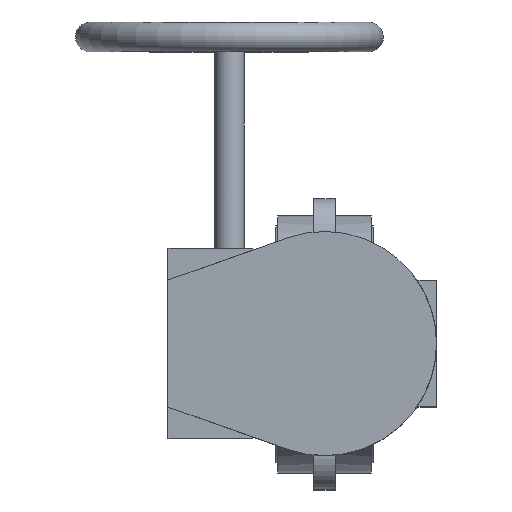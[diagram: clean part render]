
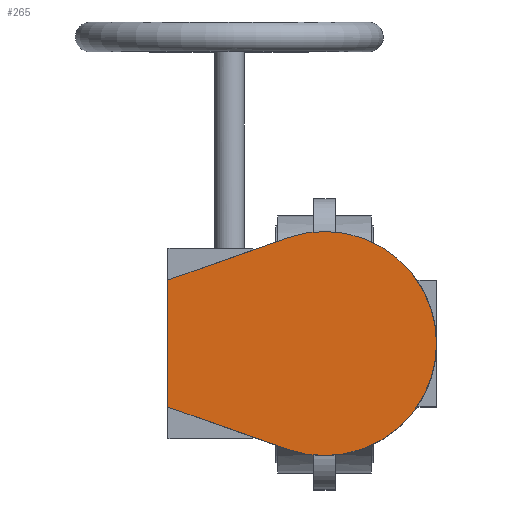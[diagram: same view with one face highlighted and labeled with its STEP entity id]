
A CAD part, top view. The second image highlights one B-rep face of the part: STEP entity #265.
In plain terms, the highlighted planar face has unit normal (0, 0, 1).
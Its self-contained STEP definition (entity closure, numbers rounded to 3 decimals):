
#265=ADVANCED_FACE('',(#6156),#6158,.T.);
#6156=FACE_BOUND('',#6157,.T.);
#6157=EDGE_LOOP('',(#10836,#10837,#10838,#10839));
#6158=PLANE('',#6159);
#6159=AXIS2_PLACEMENT_3D('',#6160,#6161,#6162);
#6160=CARTESIAN_POINT('',(0.,0.,240.));
#6161=DIRECTION('',(0.,0.,1.));
#6162=DIRECTION('',(0.,1.,0.));
#10836=ORIENTED_EDGE('',*,*,#14504,.T.);
#10837=ORIENTED_EDGE('',*,*,#14500,.T.);
#10838=ORIENTED_EDGE('',*,*,#14493,.T.);
#10839=ORIENTED_EDGE('',*,*,#14488,.T.);
#14488=EDGE_CURVE('',#16406,#16404,#16407,.T.);
#14493=EDGE_CURVE('',#16414,#16406,#16415,.T.);
#14500=EDGE_CURVE('',#16427,#16414,#16428,.T.);
#14504=EDGE_CURVE('',#16404,#16427,#16433,.T.);
#16404=VERTEX_POINT('',#19601);
#16406=VERTEX_POINT('',#19605);
#16407=LINE('',#19606,#19607);
#16414=VERTEX_POINT('',#19623);
#16415=LINE('',#19624,#19625);
#16427=VERTEX_POINT('',#19650);
#16428=LINE('',#19651,#19652);
#16433=CIRCLE('',#19664,53.);
#19601=CARTESIAN_POINT('',(-17.708,-49.954,240.));
#19605=CARTESIAN_POINT('',(-74.,-30.,240.));
#19606=CARTESIAN_POINT('',(-74.,-30.,240.));
#19607=VECTOR('',#19608,1.);
#19608=DIRECTION('',(0.943,-0.334,0.));
#19623=CARTESIAN_POINT('',(-74.,30.,240.));
#19624=CARTESIAN_POINT('',(-74.,30.,240.));
#19625=VECTOR('',#19626,1.);
#19626=DIRECTION('',(0.,-1.,0.));
#19650=CARTESIAN_POINT('',(-17.708,49.954,240.));
#19651=CARTESIAN_POINT('',(-17.708,49.954,240.));
#19652=VECTOR('',#19653,1.);
#19653=DIRECTION('',(-0.943,-0.334,0.));
#19664=AXIS2_PLACEMENT_3D('',#19665,#19666,#19667);
#19665=CARTESIAN_POINT('',(0.,0.,240.));
#19666=DIRECTION('',(0.,0.,1.));
#19667=DIRECTION('',(-0.334,-0.943,0.));
